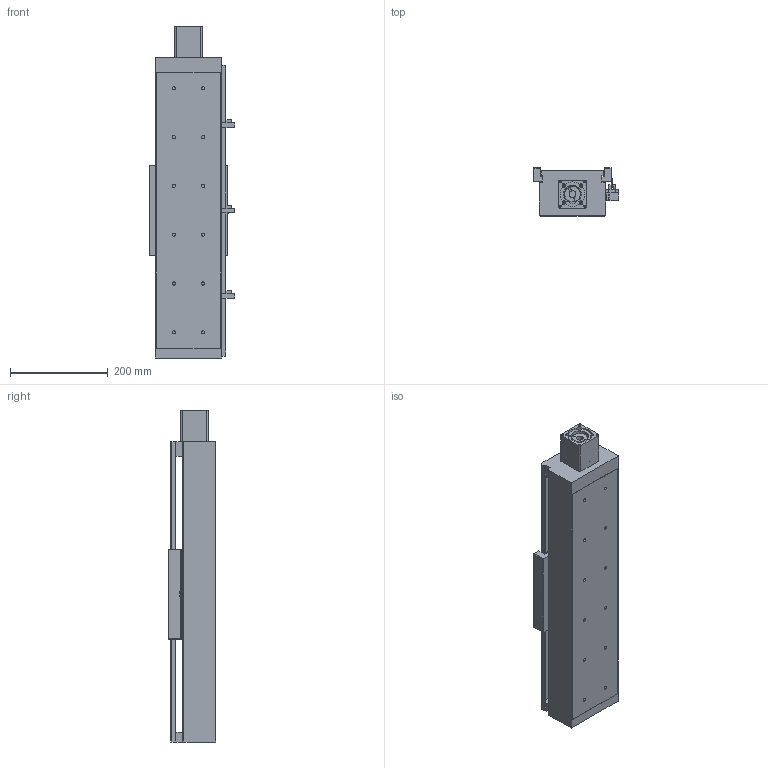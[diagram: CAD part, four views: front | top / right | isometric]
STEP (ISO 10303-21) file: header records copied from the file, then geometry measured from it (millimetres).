
FILE_DESCRIPTION((''),'2;1');
FILE_NAME('E:\libraries\UIA actuator library 2009\standard actuator\UIA136 ball screw 20\UIA136R15NDC stp file 27Apr16\UIA136R15NDC-350-R20_ _-M60-P13-C10-S.stp','2016-04-27T13:05:48',('h029'),(''),'Autodesk Inventor 11','Autodesk Inventor 11','');
FILE_SCHEMA(('AUTOMOTIVE_DESIGN { 1 0 10303 214 1 1 1 1 }'));
Length unit declared in the file: millimetre
Products named in the file (10): UIA136R15NDC-350; UIA136R15NDC-body; motor mount F60; SOH-32C; SOH-32C-3; SOH-32C-1; SOH-32C-2; Carriage; Sensor Switch; sensor rail
Assembly tree (9 placements, depth 3):
  UIA136R15NDC-350
    UIA136R15NDC-body
    motor mount F60
    SOH-32C
      SOH-32C-3
      SOH-32C-1
      SOH-32C-2
    Carriage
    Sensor Switch
    sensor rail
Bounding box: 174.5 x 98 x 680 mm (x, y, z)
Volume: 2928458.1 mm3; surface area: 751490.9 mm2
Topology: 8 solids, 8 shells, 479 faces, 1269 edges, 833 vertices
Faces by surface type: plane 311, bspline 126, cylinder 38, cone 4
Full cylindrical faces by diameter (mm): 2.459 x2, 3.242 x2, 4.5 x2, 5.5 x3, 7.5 x2, 10 x2, 12 x1, 14 x1, 32 x3, 37 x1, 41.9 x1, 42.1 x1, 43.5 x1
Entity records: 15715 total; most frequent: CARTESIAN_POINT 4562, ORIENTED_EDGE 2162, DIRECTION 2098, EDGE_CURVE 1081, VECTOR 790, LINE 790, VERTEX_POINT 768, EDGE_LOOP 705
